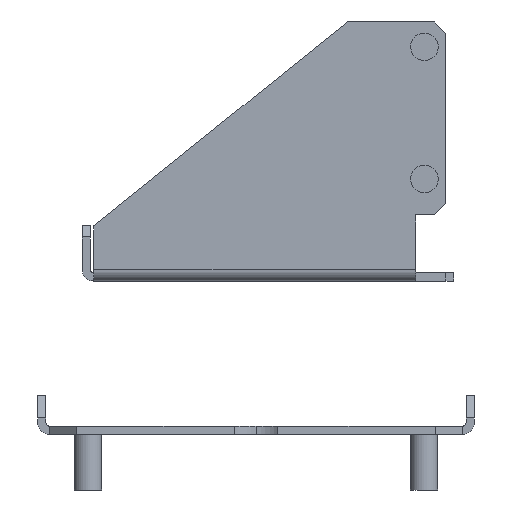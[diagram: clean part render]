
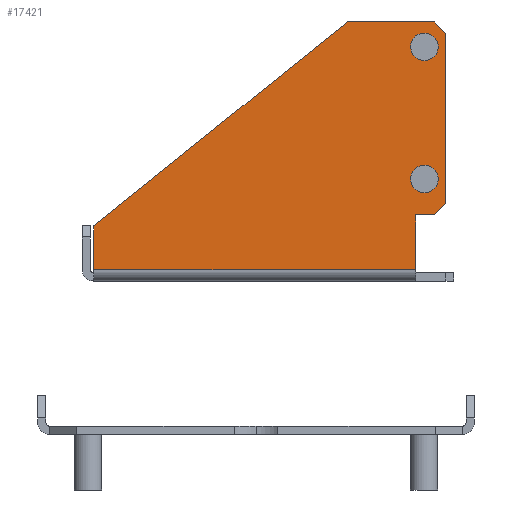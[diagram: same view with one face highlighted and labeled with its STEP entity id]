
A CAD part, left-side view. The second image highlights one B-rep face of the part: STEP entity #17421.
In plain terms, the highlighted planar face has unit normal (-1, 0, 0).
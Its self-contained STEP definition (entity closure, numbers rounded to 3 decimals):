
#15061=CARTESIAN_POINT(' ',(-111.25,-25.4,0.6));
#15062=VERTEX_POINT(' ',#15061);
#15076=CARTESIAN_POINT(' ',(-111.25,-25.4,0.6));
#15081=DIRECTION(' ',(0.,1.,0.));
#15086=VECTOR(' ',#15081,1.);
#15091=LINE('',#15076,#15086);
#15096=CARTESIAN_POINT(' ',(-111.25,33.,0.6));
#15097=VERTEX_POINT(' ',#15096);
#15101=EDGE_CURVE(' ',#15062,#15097,#15091,.T.);
#16926=DIRECTION(' ',(-1.,-0.,0.));
#16931=CARTESIAN_POINT(' ',(-111.25,-30.9,45.5));
#16936=DIRECTION(' ',(-0.,1.,0.));
#16941=AXIS2_PLACEMENT_3D(' ',#16931,#16926,#16936);
#16946=PLANE('NONE',#16941);
#16951=CARTESIAN_POINT(' ',(-111.25,-28.9,10.5));
#16956=DIRECTION(' ',(0.,1.,0.));
#16961=VECTOR(' ',#16956,1.);
#16966=LINE('',#16951,#16961);
#16971=CARTESIAN_POINT(' ',(-111.25,-28.9,10.5));
#16972=VERTEX_POINT(' ',#16971);
#16976=CARTESIAN_POINT(' ',(-111.25,-25.4,10.5));
#16977=VERTEX_POINT(' ',#16976);
#16981=EDGE_CURVE(' ',#16972,#16977,#16966,.T.);
#16986=ORIENTED_EDGE(' ',*,*,#16981,.F.);
#16991=CARTESIAN_POINT(' ',(-111.25,-28.9,10.5));
#16996=DIRECTION(' ',(0.,-0.707,0.707));
#17001=VECTOR(' ',#16996,1.);
#17006=LINE('',#16991,#17001);
#17011=CARTESIAN_POINT(' ',(-111.25,-30.9,12.5));
#17012=VERTEX_POINT(' ',#17011);
#17016=EDGE_CURVE(' ',#16972,#17012,#17006,.T.);
#17021=ORIENTED_EDGE(' ',*,*,#17016,.T.);
#17026=CARTESIAN_POINT(' ',(-111.25,-30.9,12.5));
#17031=DIRECTION(' ',(0.,0.,1.));
#17036=VECTOR(' ',#17031,1.);
#17041=LINE('',#17026,#17036);
#17046=CARTESIAN_POINT(' ',(-111.25,-30.9,43.5));
#17047=VERTEX_POINT(' ',#17046);
#17051=EDGE_CURVE(' ',#17012,#17047,#17041,.T.);
#17056=ORIENTED_EDGE(' ',*,*,#17051,.T.);
#17061=CARTESIAN_POINT(' ',(-111.25,-30.9,43.5));
#17066=DIRECTION(' ',(0.,0.707,0.707));
#17071=VECTOR(' ',#17066,1.);
#17076=LINE('',#17061,#17071);
#17081=CARTESIAN_POINT(' ',(-111.25,-28.9,45.5));
#17082=VERTEX_POINT(' ',#17081);
#17086=EDGE_CURVE(' ',#17047,#17082,#17076,.T.);
#17091=ORIENTED_EDGE(' ',*,*,#17086,.T.);
#17096=CARTESIAN_POINT(' ',(-111.25,-28.9,45.5));
#17101=DIRECTION(' ',(0.,1.,0.));
#17106=VECTOR(' ',#17101,1.);
#17111=LINE('',#17096,#17106);
#17116=CARTESIAN_POINT(' ',(-111.25,-13.,45.5));
#17117=VERTEX_POINT(' ',#17116);
#17121=EDGE_CURVE(' ',#17082,#17117,#17111,.T.);
#17126=ORIENTED_EDGE(' ',*,*,#17121,.T.);
#17131=CARTESIAN_POINT(' ',(-111.25,-13.,45.5));
#17136=DIRECTION(' ',(0.,0.779,-0.627));
#17141=VECTOR(' ',#17136,1.);
#17146=LINE('',#17131,#17141);
#17151=CARTESIAN_POINT(' ',(-111.25,33.,8.5));
#17152=VERTEX_POINT(' ',#17151);
#17156=EDGE_CURVE(' ',#17117,#17152,#17146,.T.);
#17161=ORIENTED_EDGE(' ',*,*,#17156,.T.);
#17166=CARTESIAN_POINT(' ',(-111.25,33.,8.5));
#17171=DIRECTION(' ',(0.,0.,-1.));
#17176=VECTOR(' ',#17171,1.);
#17181=LINE('',#17166,#17176);
#17186=EDGE_CURVE(' ',#17152,#15097,#17181,.T.);
#17191=ORIENTED_EDGE(' ',*,*,#17186,.T.);
#17196=ORIENTED_EDGE(' ',*,*,#15101,.F.);
#17201=CARTESIAN_POINT(' ',(-111.25,-25.4,10.5));
#17206=DIRECTION(' ',(0.,0.,-1.));
#17211=VECTOR(' ',#17206,1.);
#17216=LINE('',#17201,#17211);
#17221=EDGE_CURVE(' ',#16977,#15062,#17216,.T.);
#17226=ORIENTED_EDGE(' ',*,*,#17221,.F.);
#17231=EDGE_LOOP(' ',(#16986,#17021,#17056,#17091,#17126,#17161,#17191,#17196,#17226));
#17236=FACE_OUTER_BOUND(' ',#17231,.T.);
#17241=CARTESIAN_POINT(' ',(-111.25,-27.,41.));
#17246=DIRECTION(' ',(-1.,0.,0.));
#17251=DIRECTION(' ',(0.,0.,1.));
#17256=AXIS2_PLACEMENT_3D(' ',#17241,#17246,#17251);
#17261=CIRCLE('',#17256,2.1);
#17266=CARTESIAN_POINT(' ',(-111.25,-27.,43.1));
#17267=VERTEX_POINT(' ',#17266);
#17271=CARTESIAN_POINT(' ',(-111.25,-27.,38.9));
#17272=VERTEX_POINT(' ',#17271);
#17276=EDGE_CURVE(' ',#17267,#17272,#17261,.T.);
#17281=ORIENTED_EDGE(' ',*,*,#17276,.F.);
#17286=CARTESIAN_POINT(' ',(-111.25,-27.,41.));
#17291=DIRECTION(' ',(-1.,0.,0.));
#17296=DIRECTION(' ',(0.,0.,-1.));
#17301=AXIS2_PLACEMENT_3D(' ',#17286,#17291,#17296);
#17306=CIRCLE('',#17301,2.1);
#17311=EDGE_CURVE(' ',#17272,#17267,#17306,.T.);
#17316=ORIENTED_EDGE(' ',*,*,#17311,.F.);
#17321=EDGE_LOOP(' ',(#17281,#17316));
#17326=FACE_BOUND(' ',#17321,.T.);
#17331=CARTESIAN_POINT(' ',(-111.25,-27.,17.));
#17336=DIRECTION(' ',(-1.,0.,0.));
#17341=DIRECTION(' ',(0.,0.,1.));
#17346=AXIS2_PLACEMENT_3D(' ',#17331,#17336,#17341);
#17351=CIRCLE('',#17346,2.1);
#17356=CARTESIAN_POINT(' ',(-111.25,-27.,19.1));
#17357=VERTEX_POINT(' ',#17356);
#17361=CARTESIAN_POINT(' ',(-111.25,-27.,14.9));
#17362=VERTEX_POINT(' ',#17361);
#17366=EDGE_CURVE(' ',#17357,#17362,#17351,.T.);
#17371=ORIENTED_EDGE(' ',*,*,#17366,.F.);
#17376=CARTESIAN_POINT(' ',(-111.25,-27.,17.));
#17381=DIRECTION(' ',(-1.,0.,0.));
#17386=DIRECTION(' ',(0.,0.,-1.));
#17391=AXIS2_PLACEMENT_3D(' ',#17376,#17381,#17386);
#17396=CIRCLE('',#17391,2.1);
#17401=EDGE_CURVE(' ',#17362,#17357,#17396,.T.);
#17406=ORIENTED_EDGE(' ',*,*,#17401,.F.);
#17411=EDGE_LOOP(' ',(#17371,#17406));
#17416=FACE_BOUND(' ',#17411,.T.);
#17421=ADVANCED_FACE('NONE',(#17236,#17326,#17416),#16946,.T.);
